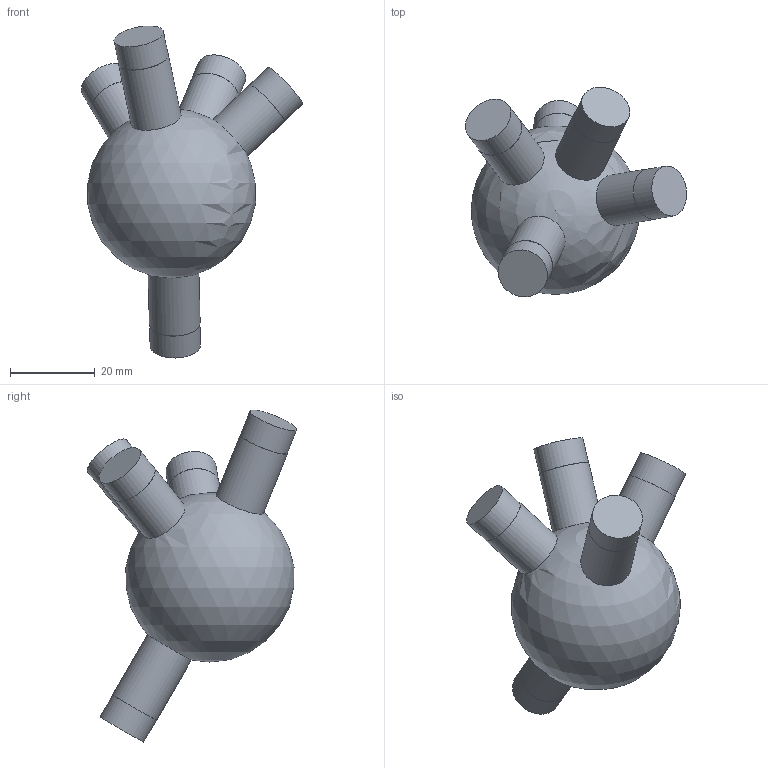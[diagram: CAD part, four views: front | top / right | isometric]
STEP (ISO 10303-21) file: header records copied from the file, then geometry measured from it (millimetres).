
FILE_DESCRIPTION(('Open CASCADE Model'),'2;1');
FILE_NAME('Open CASCADE Shape Model','2026-10-21T12:47:57',('Author'),( 'Open CASCADE'),'Open CASCADE STEP processor 7.9','Open CASCADE 7.9' ,'Unknown');
FILE_SCHEMA(('AUTOMOTIVE_DESIGN { 1 0 10303 214 1 1 1 1 }'));
Length unit declared in the file: millimetre
Products named in the file (1): Open CASCADE STEP translator 7.9 38
Bounding box: 52.29 x 49.49 x 78.4 mm (x, y, z)
Volume: 44605.7 mm3; surface area: 8808.5 mm2
Topology: 1 solids, 1 shells, 21 faces, 35 edges, 24 vertices
Faces by surface type: cylinder 10, plane 10, sphere 1
Full cylindrical faces by diameter (mm): 11.9 x5, 12 x5
Entity records: 1347 total; most frequent: CARTESIAN_POINT 553, DIRECTION 163, ORIENTED_EDGE 68, PCURVE 68, DEFINITIONAL_REPRESENTATION 68, LINE 56, VECTOR 56, AXIS2_PLACEMENT_3D 46
